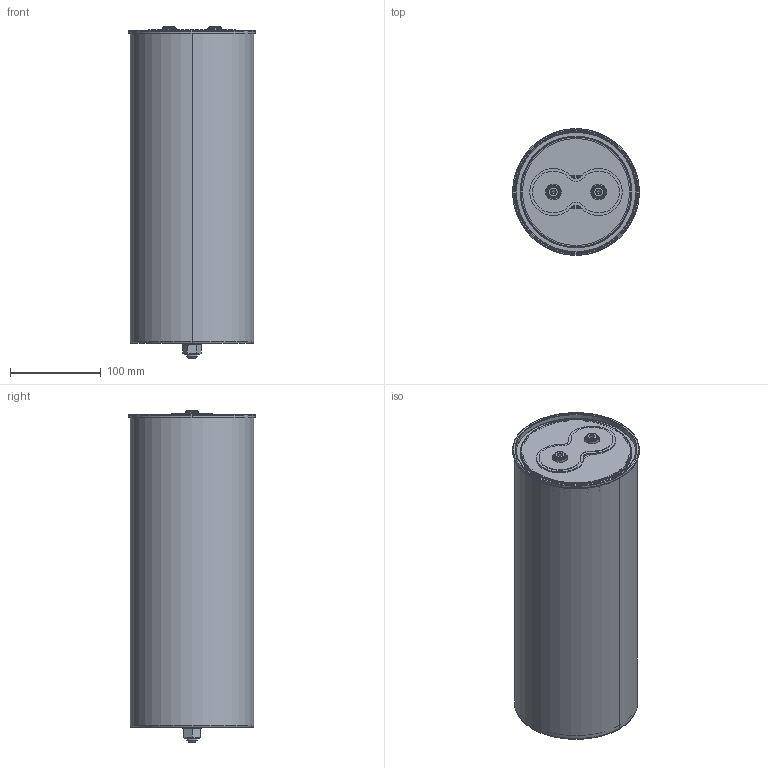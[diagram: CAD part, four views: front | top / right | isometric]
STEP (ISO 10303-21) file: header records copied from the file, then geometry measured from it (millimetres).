
FILE_DESCRIPTION (( 'STEP AP203' ), '1' );
FILE_NAME ('B25680Bx_136x345_350.STEP', '2021-09-30T07:27:38', ( '' ), ( '' ), 'SwSTEP 2.0', 'SolidWorks 2017', '' );
FILE_SCHEMA (( 'CONFIG_CONTROL_DESIGN' ));
Length unit declared in the file: millimetre
Products named in the file (1): B25680Bx_136x345_350
Bounding box: 140 x 140 x 366 mm (x, y, z)
Volume: 225051.7 mm3; surface area: 381032.1 mm2
Topology: 1 solids, 8 shells, 381 faces, 906 edges, 572 vertices
Faces by surface type: plane 151, cylinder 140, cone 34, torus 32, bspline 24
Entity records: 14153 total; most frequent: CARTESIAN_POINT 5048, DIRECTION 2028, ORIENTED_EDGE 1804, EDGE_CURVE 902, AXIS2_PLACEMENT_3D 820, VERTEX_POINT 572, CIRCLE 462, EDGE_LOOP 430
